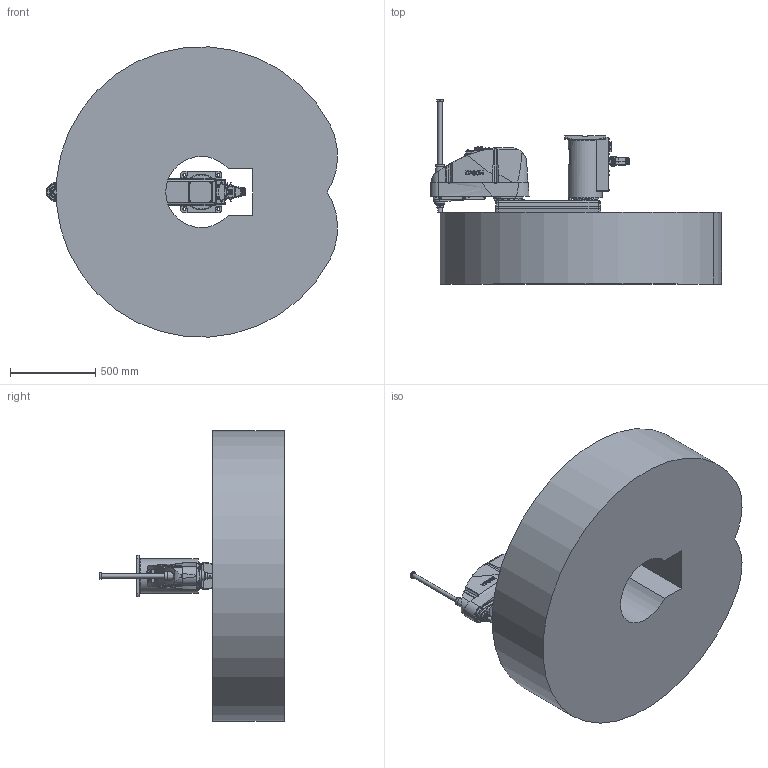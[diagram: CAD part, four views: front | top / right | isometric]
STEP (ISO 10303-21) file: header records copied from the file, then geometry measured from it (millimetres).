
FILE_DESCRIPTION( ( 'STEP AP214' ), '1' );
FILE_NAME( 'C:/Users/9607552/Desktop/GX10-B854SR_straight.stp', '2023-08-01T09:18:15', ( '' ), ( '' ), ' ', 'PARTsolutions', ' ' );
FILE_SCHEMA( ( 'AUTOMOTIVE_DESIGN { 1 0 10303 214 1 1 1 1 }' ) );
Length unit declared in the file: millimetre
Products named in the file (7): GX10-B854SRS-W; _Base sr; _Straight-B; _J1 Arm GX10-450 r/w; _J2 Arm GX10-s; _J3 Arm GX10-s (4); _GX10_20B-34_4
Assembly tree (6 placements, depth 2):
  GX10-B854SRS-W
    _Base sr
    _Straight-B
    _J1 Arm GX10-450 r/w
    _J2 Arm GX10-s
    _J3 Arm GX10-s (4)
    _GX10_20B-34_4
Bounding box: 1702.55 x 1080 x 1697.41 mm (x, y, z)
Volume: 912371481.9 mm3; surface area: 8480945.8 mm2
Topology: 6 solids, 6 shells, 2504 faces, 6123 edges, 3994 vertices
Faces by surface type: plane 1313, cylinder 759, cone 334, torus 65, bspline 32, sphere 1
Full cylindrical faces by diameter (mm): 1 x24, 1.18 x55, 3 x32, 3.242 x10, 3.3 x4, 4.2 x4, 4.8 x4, 5.1 x4, 5.25 x2, 5.34 x8, 5.4 x5, 5.5 x16, 6 x1, 6.2 x4, 6.647 x2, 7 x31, 8 x9, 8.5 x2, 9 x4, 10 x32, 11 x14, 12 x6, 12.25 x1, 13 x2, 14 x8, 14.25 x1, 16 x6, 18 x2, 20.4 x1, 21.7 x2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
Entity records: 94906 total; most frequent: CARTESIAN_POINT 18200, DIRECTION 11667, ORIENTED_EDGE 10906, EDGE_CURVE 5453, AXIS2_PLACEMENT_3D 4467, VERTEX_POINT 3904, EDGE_LOOP 3473, FACE_OUTER_BOUND 2875
